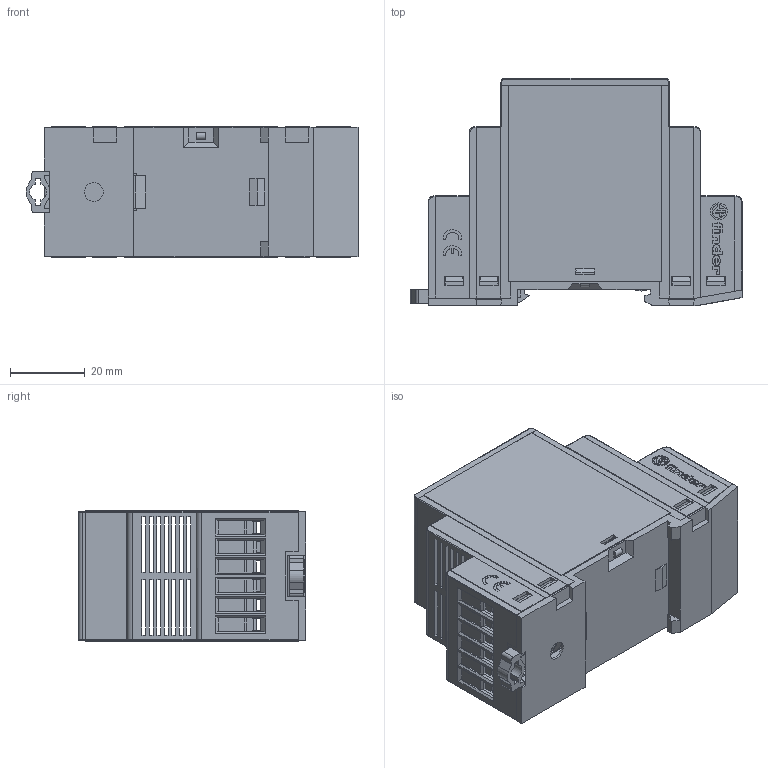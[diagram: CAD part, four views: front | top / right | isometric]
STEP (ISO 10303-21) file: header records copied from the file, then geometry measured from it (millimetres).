
FILE_DESCRIPTION( ( 'Unknown' ), '1' );
FILE_NAME( 'H:/Disegni/Lavori in sospeso/Catalogo/70_42/Nuova cartella/Complessivo 70_42 x catalogo b.stp', 'Unknown', ( 'Unknown' ), ( 'Unknown' ), 'PSStep 15.0.49', 'Unknown', ' ' );
FILE_SCHEMA( ( 'AUTOMOTIVE_DESIGN { 1 0 10303 214 1 1 1 1 }' ) );
Length unit declared in the file: millimetre
Products named in the file (72): 119101; 170762; 1117443; 1117444; 111775; 170781; 122780; 1707042; 112722; 180782; 1127001; 178215; 119150; 119536
Bounding box: 88.85 x 60.8 x 35 mm (x, y, z)
Surface area: 26635.9 mm2 (no closed solid volume)
Topology: 0 solids, 1841 shells, 1841 faces, 11345 edges, 11315 vertices
Faces by surface type: plane 1574, cylinder 165, cone 45, torus 20, extrusion 16, bspline 11, revolution 10
Full cylindrical faces by diameter (mm): 3 x2, 4.2 x10, 4.566 x2, 4.6 x10, 5 x6
Entity records: 124931 total; most frequent: CARTESIAN_POINT 28797, DIRECTION 15327, ORIENTED_EDGE 11295, EDGE_CURVE 11295, VERTEX_POINT 11295, VECTOR 9705, LINE 9689, AXIS2_PLACEMENT_3D 2806
